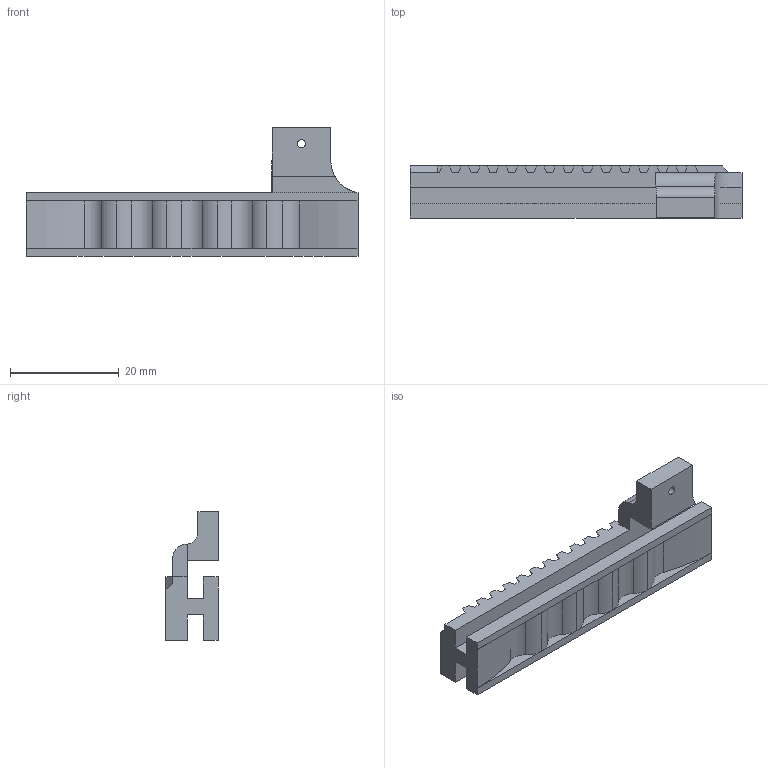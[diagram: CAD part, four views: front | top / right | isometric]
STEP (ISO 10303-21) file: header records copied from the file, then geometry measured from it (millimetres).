
FILE_DESCRIPTION(/* description */ (''),/* implementation_level */ '2;1');
FILE_NAME(/* name */ 'getz1 v2.step',/* time_stamp */ '2024-05-26T15:24:18+03:00',/* author */ (''),/* organization */ (''),/* preprocessor_version */ 'ST-DEVELOPER v19.2',/* originating_system */ 'Autodesk Translation Framework v12.4.0.73',/* authorisation */ '');
FILE_SCHEMA (('AUTOMOTIVE_DESIGN { 1 0 10303 214 3 1 1 }'));
Length unit declared in the file: millimetre
Products named in the file (2): getz1; Healical Rack (51.00000000000001mm R@25.00 m=1.0)
Assembly tree (1 placements, depth 2):
  getz1
    Healical Rack (51.00000000000001mm R@25.00 m=1.0)
Bounding box: 61 x 9.6 x 23.7 mm (x, y, z)
Volume: 4999.6 mm3; surface area: 4701.8 mm2
Topology: 1 solids, 1 shells, 111 faces, 306 edges, 197 vertices
Faces by surface type: plane 92, cylinder 19
Full cylindrical faces by diameter (mm): 1.5 x1
Entity records: 3536 total; most frequent: CARTESIAN_POINT 626, ORIENTED_EDGE 612, DIRECTION 573, EDGE_CURVE 306, LINE 265, VECTOR 265, VERTEX_POINT 197, AXIS2_PLACEMENT_3D 154
